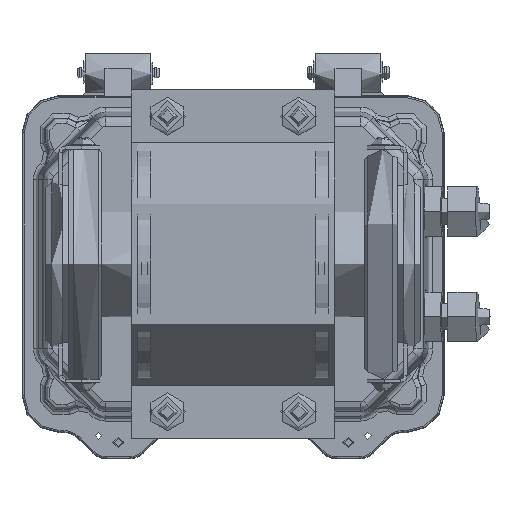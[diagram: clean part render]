
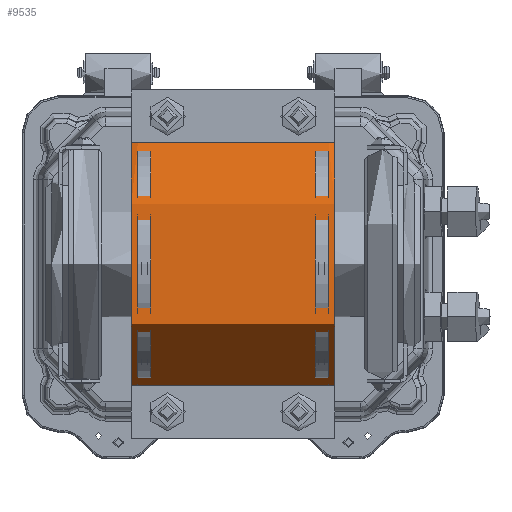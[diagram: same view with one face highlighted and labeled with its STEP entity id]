
A CAD part, front view. The second image highlights one B-rep face of the part: STEP entity #9535.
In plain terms, the highlighted cylindrical face has radius 37 mm (diameter 74 mm), a partial arc.
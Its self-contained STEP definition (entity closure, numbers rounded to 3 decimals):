
#9535=ADVANCED_FACE('',(#27480),#27482,.T.);
#27480=FACE_BOUND('',#27481,.T.);
#27481=EDGE_LOOP('',(#37340,#37341,#37342,#37343,#37344,#37345,#37346,#37347,#37348,
#37349));
#27482=CYLINDRICAL_SURFACE('',#27483,37.);
#27483=AXIS2_PLACEMENT_3D('',#27484,#27485,#27486);
#27484=CARTESIAN_POINT('',(31.,0.,-0.));
#27485=DIRECTION('',(-1.,0.,0.));
#27486=DIRECTION('',(0.,0.,-1.));
#37340=ORIENTED_EDGE('',*,*,#42081,.F.);
#37341=ORIENTED_EDGE('',*,*,#41983,.F.);
#37342=ORIENTED_EDGE('',*,*,#42071,.T.);
#37343=ORIENTED_EDGE('',*,*,#42082,.F.);
#37344=ORIENTED_EDGE('',*,*,#42022,.T.);
#37345=ORIENTED_EDGE('',*,*,#42058,.F.);
#37346=ORIENTED_EDGE('',*,*,#42032,.T.);
#37347=ORIENTED_EDGE('',*,*,#42083,.T.);
#37348=ORIENTED_EDGE('',*,*,#42062,.T.);
#37349=ORIENTED_EDGE('',*,*,#41964,.F.);
#41964=EDGE_CURVE('',#46220,#46222,#46223,.T.);
#41983=EDGE_CURVE('',#46249,#46251,#46252,.F.);
#42022=EDGE_CURVE('',#46313,#46181,#46314,.F.);
#42032=EDGE_CURVE('',#46173,#46329,#46331,.F.);
#42058=EDGE_CURVE('',#46173,#46181,#46371,.T.);
#42062=EDGE_CURVE('',#46377,#46222,#46378,.T.);
#42071=EDGE_CURVE('',#46249,#46387,#46389,.T.);
#42081=EDGE_CURVE('',#46251,#46220,#46405,.F.);
#42082=EDGE_CURVE('',#46313,#46387,#46406,.T.);
#42083=EDGE_CURVE('',#46329,#46377,#46407,.T.);
#46173=VERTEX_POINT('',#59472);
#46181=VERTEX_POINT('',#59490);
#46220=VERTEX_POINT('',#59587);
#46222=VERTEX_POINT('',#59591);
#46223=CIRCLE('',#59592,37.);
#46249=VERTEX_POINT('',#59655);
#46251=VERTEX_POINT('',#59659);
#46252=CIRCLE('',#59660,37.);
#46313=VERTEX_POINT('',#61303);
#46314=LINE('',#61304,#61305);
#46329=VERTEX_POINT('',#61337);
#46331=LINE('',#61341,#61342);
#46371=LINE('',#61521,#61522);
#46377=VERTEX_POINT('',#61537);
#46378=LINE('',#61538,#61539);
#46387=VERTEX_POINT('',#61563);
#46389=LINE('',#61567,#61568);
#46405=LINE('',#61603,#61604);
#46406=CIRCLE('',#61606,37.);
#46407=CIRCLE('',#61610,37.);
#59472=CARTESIAN_POINT('',(29.,-1.,-36.986));
#59490=CARTESIAN_POINT('',(-29.,-1.,-36.986));
#59587=CARTESIAN_POINT('',(29.,-2.,36.946));
#59591=CARTESIAN_POINT('',(29.,-1.,36.986));
#59592=AXIS2_PLACEMENT_3D('',#59593,#59594,#59595);
#59593=CARTESIAN_POINT('',(29.,0.,0.));
#59594=DIRECTION('',(-1.,0.,0.));
#59595=DIRECTION('',(0.,-0.054,0.999));
#59655=CARTESIAN_POINT('',(-29.,-1.,36.986));
#59659=CARTESIAN_POINT('',(-29.,-2.,36.946));
#59660=AXIS2_PLACEMENT_3D('',#59661,#59662,#59663);
#59661=CARTESIAN_POINT('',(-29.,0.,0.));
#59662=DIRECTION('',(-1.,0.,0.));
#59663=DIRECTION('',(0.,-0.054,0.999));
#61303=CARTESIAN_POINT('',(-31.,-1.,-36.986));
#61304=CARTESIAN_POINT('',(-29.,-1.,-36.986));
#61305=VECTOR('',#61306,1.);
#61306=DIRECTION('',(-1.,0.,0.));
#61337=CARTESIAN_POINT('',(31.,-1.,-36.986));
#61341=CARTESIAN_POINT('',(31.,-1.,-36.986));
#61342=VECTOR('',#61343,1.);
#61343=DIRECTION('',(-1.,0.,0.));
#61521=CARTESIAN_POINT('',(29.,-1.,-36.986));
#61522=VECTOR('',#61523,1.);
#61523=DIRECTION('',(-1.,0.,0.));
#61537=CARTESIAN_POINT('',(31.,-1.,36.986));
#61538=CARTESIAN_POINT('',(31.,-1.,36.986));
#61539=VECTOR('',#61540,1.);
#61540=DIRECTION('',(-1.,0.,0.));
#61563=CARTESIAN_POINT('',(-31.,-1.,36.986));
#61567=CARTESIAN_POINT('',(-29.,-1.,36.986));
#61568=VECTOR('',#61569,1.);
#61569=DIRECTION('',(-1.,0.,0.));
#61603=CARTESIAN_POINT('',(29.,-2.,36.946));
#61604=VECTOR('',#61605,1.);
#61605=DIRECTION('',(-1.,0.,0.));
#61606=AXIS2_PLACEMENT_3D('',#61607,#61608,#61609);
#61607=CARTESIAN_POINT('',(-31.,0.,0.));
#61608=DIRECTION('',(-1.,0.,0.));
#61609=DIRECTION('',(0.,-0.027,-1.));
#61610=AXIS2_PLACEMENT_3D('',#61611,#61612,#61613);
#61611=CARTESIAN_POINT('',(31.,0.,0.));
#61612=DIRECTION('',(-1.,0.,0.));
#61613=DIRECTION('',(0.,-0.027,-1.));
